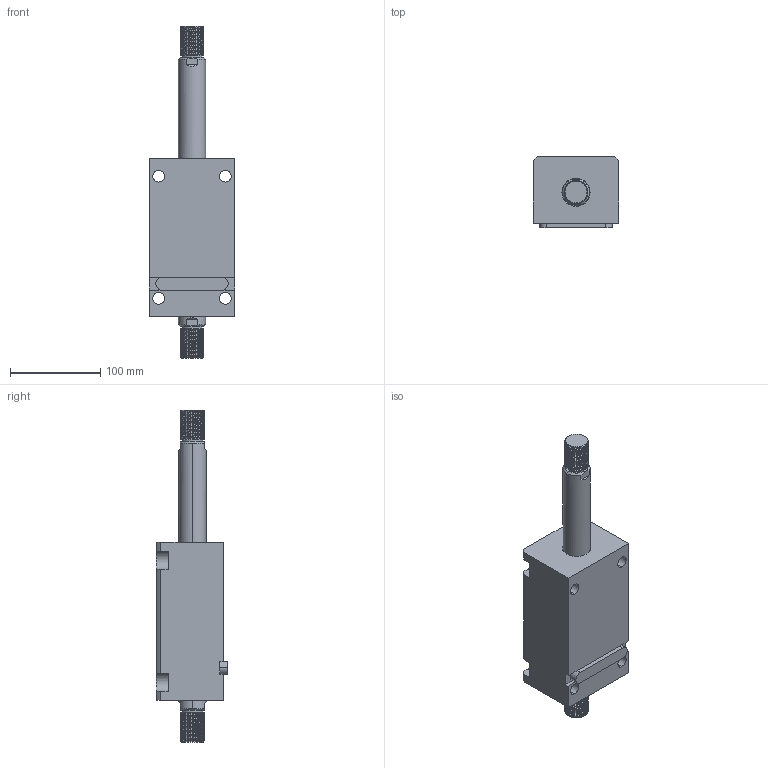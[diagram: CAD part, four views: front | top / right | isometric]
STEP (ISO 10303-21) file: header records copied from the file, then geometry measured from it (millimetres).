
FILE_DESCRIPTION (( 'STEP AP203' ), '1' );
FILE_NAME ('CHTB-LW50-100W.STEP', '2018-05-18T10:14:33', ( '' ), ( '' ), 'SwSTEP 2.0', 'SolidWorks 2015', '' );
FILE_SCHEMA (( 'CONFIG_CONTROL_DESIGN' ));
Length unit declared in the file: millimetre
Products named in the file (4): CHTB-LW50-100W; CHTM-SDMA50QG; 掛极LW50-100W; 活塞杆LW50-100W
Assembly tree (3 placements, depth 2):
  CHTB-LW50-100W
    掛极LW50-100W
    活塞杆LW50-100W
    CHTM-SDMA50QG
Bounding box: 94 x 79 x 367 mm (x, y, z)
Volume: 1155889.2 mm3; surface area: 167730.8 mm2
Topology: 3 solids, 3 shells, 310 faces, 854 edges, 568 vertices
Faces by surface type: cylinder 186, plane 63, cone 27, bspline 18, torus 16
Entity records: 19510 total; most frequent: CARTESIAN_POINT 11940, ORIENTED_EDGE 1700, DIRECTION 1310, EDGE_CURVE 850, VERTEX_POINT 568, AXIS2_PLACEMENT_3D 503, EDGE_LOOP 348, FACE_OUTER_BOUND 310
